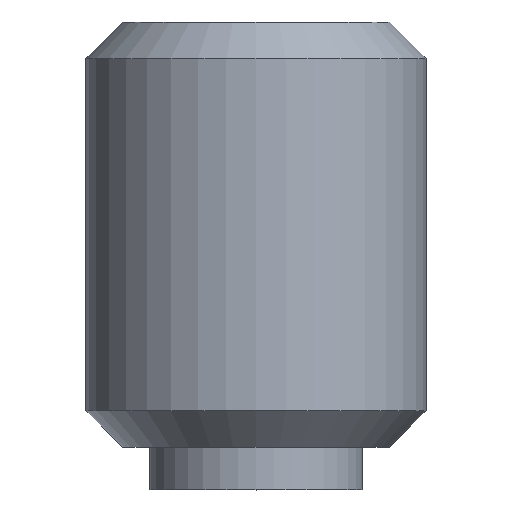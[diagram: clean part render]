
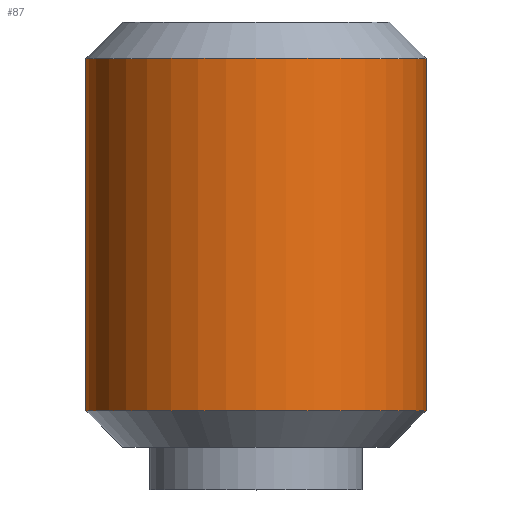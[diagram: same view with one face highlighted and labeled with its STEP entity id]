
A CAD part, top view. The second image highlights one B-rep face of the part: STEP entity #87.
In plain terms, the highlighted cylindrical face has radius 2 mm (diameter 4 mm), a full revolution.
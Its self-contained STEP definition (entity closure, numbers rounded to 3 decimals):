
#87 = ADVANCED_FACE( '', ( #118, #119 ), #120, .T. );
#118 = FACE_OUTER_BOUND( '', #152, .T. );
#119 = FACE_OUTER_BOUND( '', #153, .T. );
#120 = CYLINDRICAL_SURFACE( '', #154, 2. );
#152 = EDGE_LOOP( '', ( #238 ) );
#153 = EDGE_LOOP( '', ( #239 ) );
#154 = AXIS2_PLACEMENT_3D( '', #240, #241, #242 );
#238 = ORIENTED_EDGE( '', *, *, #270, .F. );
#239 = ORIENTED_EDGE( '', *, *, #271, .T. );
#240 = CARTESIAN_POINT( '', ( 0., 0., 0. ) );
#241 = DIRECTION( '', ( 0., 1., 0. ) );
#242 = DIRECTION( '', ( 0., 0., -1. ) );
#270 = EDGE_CURVE( '', #310, #310, #311, .T. );
#271 = EDGE_CURVE( '', #312, #312, #313, .T. );
#310 = VERTEX_POINT( '', #370 );
#311 = CIRCLE( '', #371, 2. );
#312 = VERTEX_POINT( '', #372 );
#313 = CIRCLE( '', #373, 2. );
#370 = CARTESIAN_POINT( '', ( 0., 0.93, -2. ) );
#371 = AXIS2_PLACEMENT_3D( '', #404, #405, #406 );
#372 = CARTESIAN_POINT( '', ( 0., 5.071, -2. ) );
#373 = AXIS2_PLACEMENT_3D( '', #407, #408, #409 );
#404 = CARTESIAN_POINT( '', ( 0., 0.93, 0. ) );
#405 = DIRECTION( '', ( 0., -1., 0. ) );
#406 = DIRECTION( '', ( 0., 0., -1. ) );
#407 = CARTESIAN_POINT( '', ( 0., 5.071, 0. ) );
#408 = DIRECTION( '', ( 0., -1., 0. ) );
#409 = DIRECTION( '', ( 0., 0., -1. ) );
